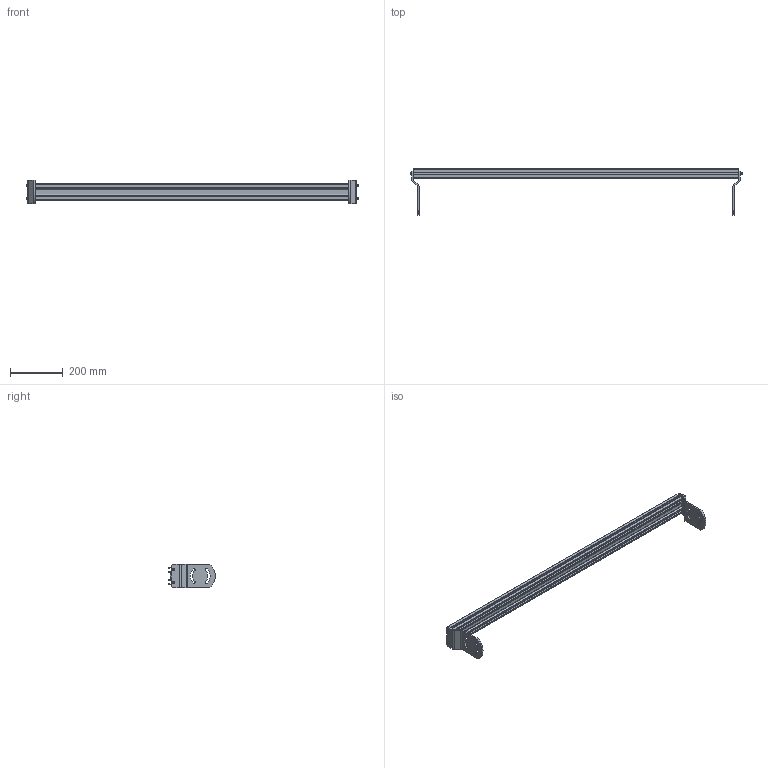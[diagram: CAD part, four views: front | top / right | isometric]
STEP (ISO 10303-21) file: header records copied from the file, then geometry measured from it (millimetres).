
FILE_DESCRIPTION((''),'2;1');
FILE_NAME('39MCM46-2_ASM','2023-03-01T',('jenni.wallner'),(''),'PRO/ENGINEER BY PARAMETRIC TECHNOLOGY CORPORATION, 2012420','PRO/ENGINEER BY PARAMETRIC TECHNOLOGY CORPORATION, 2012420','');
FILE_SCHEMA(('CONFIG_CONTROL_DESIGN'));
Length unit declared in the file: inch
Products named in the file (4): 710210_04879; 300825M; 708180P; 39MCM46-2_ASM
Assembly tree (7 placements, depth 2):
  39MCM46-2_ASM
    710210_04879
    300825M  x2
    708180P  x4
Bounding box: 1263.97 x 176.65 x 88.93 mm (x, y, z)
Volume: 1053735.3 mm3; surface area: 798795.8 mm2
Topology: 7 solids, 7 shells, 256 faces, 662 edges, 428 vertices
Faces by surface type: plane 144, cylinder 92, cone 20
Entity records: 4895 total; most frequent: CARTESIAN_POINT 859, DIRECTION 825, ORIENTED_EDGE 816, EDGE_CURVE 408, VECTOR 301, LINE 301, VERTEX_POINT 266, AXIS2_PLACEMENT_3D 262
